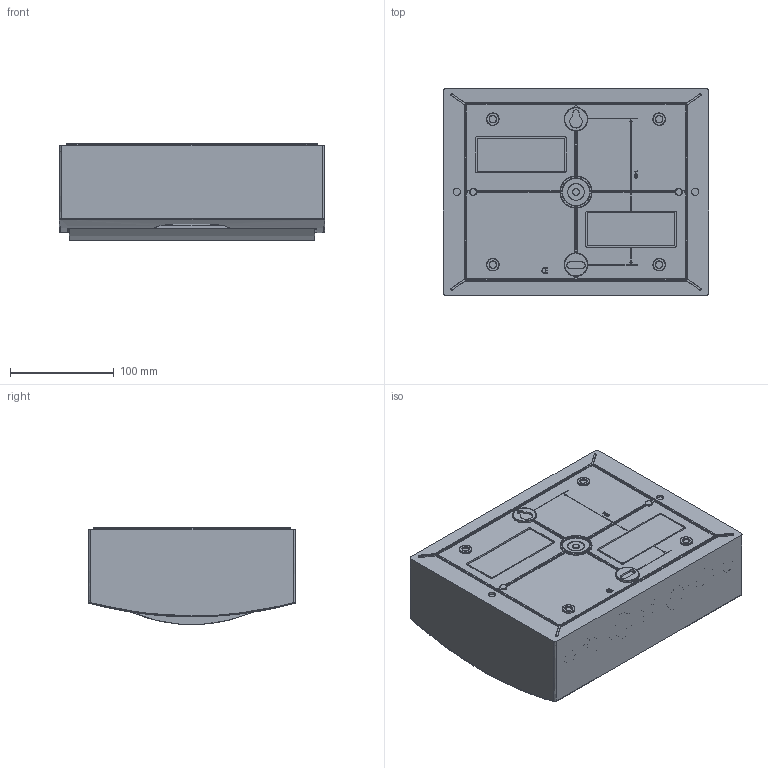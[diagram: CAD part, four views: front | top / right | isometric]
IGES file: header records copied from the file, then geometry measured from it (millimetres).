
Start section: SolidWorks IGES file using analytic representation for surfaces
Global section: file name: Q:\GROUPS\BR_SC_JGS_WA_TECNICO\ENG\Usuarios\Rodrigob\conversão\Linha Predial\Produto\Quadros QDW\QDW\QDW02-S\QDW02-12-S\QDW02-12-S.IGS; native system: SolidWorks 2012; preprocessor: SolidWorks 2012; author: rodrigob; date: 140320.142609; units: millimetre
Bounding box: 255 x 199 x 93.61 mm (x, y, z)
Surface area: 260485.3 mm2 (no closed solid volume)
Topology: 0 solids, 0 shells, 668 faces, 9607 edges, 9607 vertices
Faces by surface type: bspline 414, revolution 254
